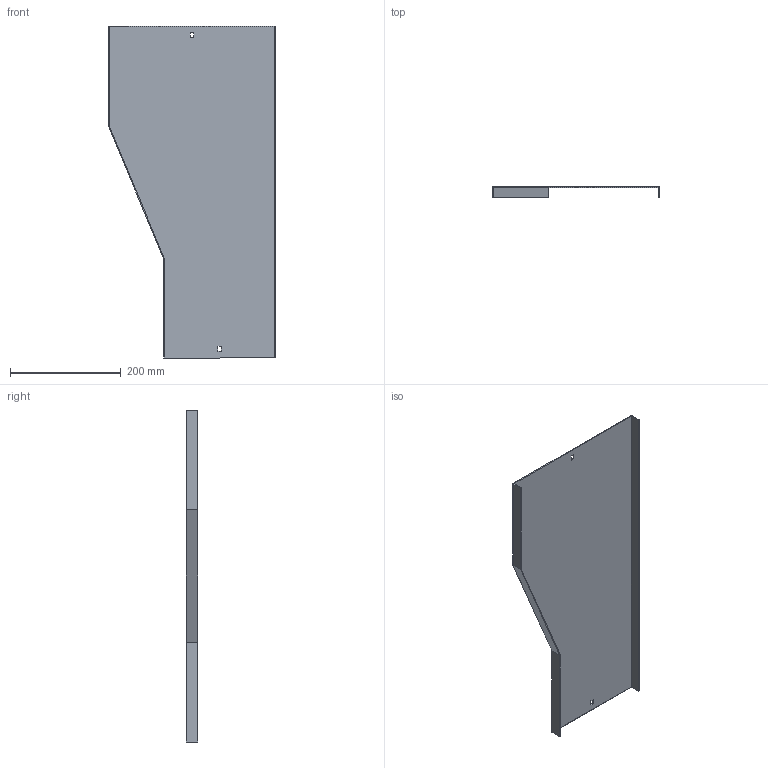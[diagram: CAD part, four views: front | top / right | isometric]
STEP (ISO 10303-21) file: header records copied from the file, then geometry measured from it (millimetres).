
FILE_DESCRIPTION (( 'STEP AP214' ), '1' );
FILE_NAME ('B2X21N2R300X.step', '2025-09-02T15:44:35', ( '' ), ( '' ), 'SwSTEP 2.0', 'SolidWorks 2023', '' );
FILE_SCHEMA (( 'AUTOMOTIVE_DESIGN' ));
Length unit declared in the file: millimetre
Products named in the file (1): B2X21N2R300X
Bounding box: 303 x 20 x 600 mm (x, y, z)
Volume: 261379.5 mm3; surface area: 351299 mm2
Topology: 1 solids, 1 shells, 22 faces, 60 edges, 40 vertices
Faces by surface type: plane 22
Entity records: 715 total; most frequent: CARTESIAN_POINT 123, ORIENTED_EDGE 120, DIRECTION 106, EDGE_CURVE 60, LINE 60, VECTOR 60, VERTEX_POINT 40, EDGE_LOOP 26
